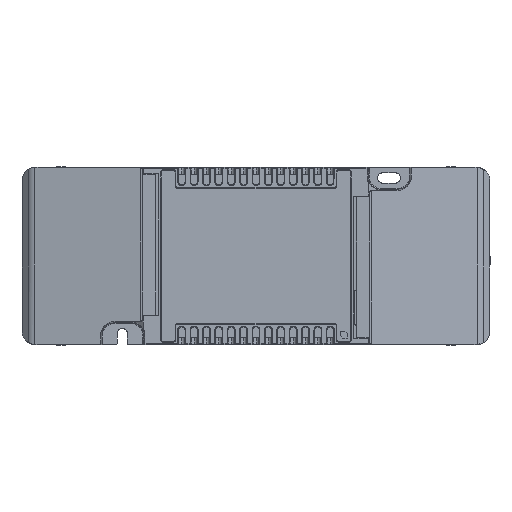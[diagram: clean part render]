
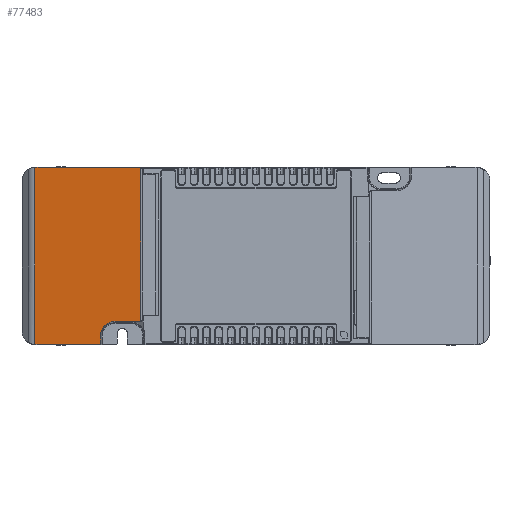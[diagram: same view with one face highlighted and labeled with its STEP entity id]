
A CAD part, top view. The second image highlights one B-rep face of the part: STEP entity #77483.
In plain terms, the highlighted planar face has unit normal (-0.141, 0, 0.99) as drawn and (0, -0.141, 0.99) by its records, which use the part's own axes.
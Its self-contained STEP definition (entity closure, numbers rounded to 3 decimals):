
#1093 = DIRECTION ( 'NONE',  ( -0.002, 0.99, 0.141 ) ) ;
#4899 = EDGE_CURVE ( 'NONE', #94100, #55813, #36519, .T. ) ;
#5419 = VERTEX_POINT ( 'NONE', #5581 ) ;
#5581 = CARTESIAN_POINT ( 'NONE',  ( 74.296, 15.772, 64.682 ) ) ;
#6487 = VECTOR ( 'NONE', #17252, 1000. ) ;
#9452 = CARTESIAN_POINT ( 'NONE',  ( 74.245, 45.08, 68.852 ) ) ;
#9981 = ORIENTED_EDGE ( 'NONE', *, *, #68151, .F. ) ;
#12097 = CARTESIAN_POINT ( 'NONE',  ( -4.377, 8.945, 63.71 ) ) ;
#12564 = CARTESIAN_POINT ( 'NONE',  ( 66.549, 45.08, 68.852 ) ) ;
#14315 = ORIENTED_EDGE ( 'NONE', *, *, #21126, .T. ) ;
#16767 = EDGE_CURVE ( 'NONE', #63071, #88839, #31916, .T. ) ;
#16996 = CARTESIAN_POINT ( 'NONE',  ( 74.253, 42.084, 68.425 ) ) ;
#17252 = DIRECTION ( 'NONE',  ( -1., 0., 0. ) ) ;
#17317 = CARTESIAN_POINT ( 'NONE',  ( 69.979, 45.08, 68.852 ) ) ;
#17962 = DIRECTION ( 'NONE',  ( 1., 0., 0. ) ) ;
#20553 = LINE ( 'NONE', #16996, #97491 ) ;
#21066 = CARTESIAN_POINT ( 'NONE',  ( -4.352, 15.942, 64.706 ) ) ;
#21126 = EDGE_CURVE ( 'NONE', #94100, #63071, #27507, .T. ) ;
#25269 = CARTESIAN_POINT ( 'NONE',  ( 74.317, 16.282, 64.754 ) ) ;
#25343 = VECTOR ( 'NONE', #17962, 1000. ) ;
#27507 = LINE ( 'NONE', #96306, #6487 ) ;
#28360 = CARTESIAN_POINT ( 'NONE',  ( -4.338, 15.772, 64.682 ) ) ;
#28426 = CARTESIAN_POINT ( 'NONE',  ( 64.119, 47.501, 69.196 ) ) ;
#29094 =( BOUNDED_CURVE ( )  B_SPLINE_CURVE ( 3, ( #28360, #21066, #36992, #92497 ),
 .UNSPECIFIED., .F., .F. ) 
 B_SPLINE_CURVE_WITH_KNOTS ( ( 4, 4 ),
 ( 1.377, 1.462 ),
 .UNSPECIFIED. ) 
 CURVE ( )  GEOMETRIC_REPRESENTATION_ITEM ( )  RATIONAL_B_SPLINE_CURVE ( ( 1., 0.999, 0.999, 1. ) ) 
 REPRESENTATION_ITEM ( '' )  );
#30039 = VERTEX_POINT ( 'NONE', #25269 ) ;
#31916 = LINE ( 'NONE', #12097, #71657 ) ;
#34743 = DIRECTION ( 'NONE',  ( 0.004, -0.99, -0.141 ) ) ;
#35207 = AXIS2_PLACEMENT_3D ( 'NONE', #37728, #93260, #45693 ) ;
#36303 = CARTESIAN_POINT ( 'NONE',  ( 74.317, 16.282, 64.754 ) ) ;
#36519 = LINE ( 'NONE', #74359, #97365 ) ;
#36746 = EDGE_LOOP ( 'NONE', ( #59525, #102982, #9981, #48173, #60960, #49900, #82205, #14315, #58102 ) ) ;
#36856 = LINE ( 'NONE', #46539, #97706 ) ;
#36992 = CARTESIAN_POINT ( 'NONE',  ( -4.359, 16.112, 64.73 ) ) ;
#37728 = CARTESIAN_POINT ( 'NONE',  ( 82.979, 63.32, 71.447 ) ) ;
#39974 = EDGE_CURVE ( 'NONE', #82624, #5419, #88633, .T. ) ;
#45693 = DIRECTION ( 'NONE',  ( 0., -0.99, -0.141 ) ) ;
#45768 = FACE_OUTER_BOUND ( 'NONE', #36746, .T. ) ;
#46539 = CARTESIAN_POINT ( 'NONE',  ( 90.549, 45.08, 68.852 ) ) ;
#48173 = ORIENTED_EDGE ( 'NONE', *, *, #55535, .T. ) ;
#49900 = ORIENTED_EDGE ( 'NONE', *, *, #73293, .T. ) ;
#51143 =( BOUNDED_CURVE ( )  B_SPLINE_CURVE ( 3, ( #68004, #12564, #28426, #83947 ),
 .UNSPECIFIED., .F., .F. ) 
 B_SPLINE_CURVE_WITH_KNOTS ( ( 4, 4 ),
 ( 3.142, 4.709 ),
 .UNSPECIFIED. ) 
 CURVE ( )  GEOMETRIC_REPRESENTATION_ITEM ( )  RATIONAL_B_SPLINE_CURVE ( ( 1., 0.806, 0.806, 1. ) ) 
 REPRESENTATION_ITEM ( '' )  );
#51854 =( BOUNDED_CURVE ( )  B_SPLINE_CURVE ( 3, ( #36303, #83886, #99872, #52276 ),
 .UNSPECIFIED., .F., .F. ) 
 B_SPLINE_CURVE_WITH_KNOTS ( ( 4, 4 ),
 ( 4.821, 4.906 ),
 .UNSPECIFIED. ) 
 CURVE ( )  GEOMETRIC_REPRESENTATION_ITEM ( )  RATIONAL_B_SPLINE_CURVE ( ( 1., 0.999, 0.999, 1. ) ) 
 REPRESENTATION_ITEM ( '' )  );
#52276 = CARTESIAN_POINT ( 'NONE',  ( 74.296, 15.772, 64.682 ) ) ;
#52437 = EDGE_CURVE ( 'NONE', #82624, #88839, #29094, .T. ) ;
#53362 = PLANE ( 'NONE',  #35207 ) ;
#55535 = EDGE_CURVE ( 'NONE', #30039, #102787, #20553, .T. ) ;
#55813 = VERTEX_POINT ( 'NONE', #91127 ) ;
#57295 = CARTESIAN_POINT ( 'NONE',  ( 64.062, 62.9, 71.387 ) ) ;
#58102 = ORIENTED_EDGE ( 'NONE', *, *, #16767, .T. ) ;
#59525 = ORIENTED_EDGE ( 'NONE', *, *, #52437, .F. ) ;
#60960 = ORIENTED_EDGE ( 'NONE', *, *, #83067, .T. ) ;
#62560 = DIRECTION ( 'NONE',  ( -1., 0., 0. ) ) ;
#63071 = VERTEX_POINT ( 'NONE', #82980 ) ;
#64362 = CARTESIAN_POINT ( 'NONE',  ( -4.338, 15.772, 64.682 ) ) ;
#68004 = CARTESIAN_POINT ( 'NONE',  ( 69.979, 45.08, 68.852 ) ) ;
#68151 = EDGE_CURVE ( 'NONE', #30039, #5419, #51854, .T. ) ;
#71657 = VECTOR ( 'NONE', #99450, 1000. ) ;
#73293 = EDGE_CURVE ( 'NONE', #86688, #55813, #51143, .T. ) ;
#74359 = CARTESIAN_POINT ( 'NONE',  ( 64.263, 8.944, 63.71 ) ) ;
#77483 = ADVANCED_FACE ( 'NONE', ( #45768 ), #53362, .T. ) ;
#81448 = CARTESIAN_POINT ( 'NONE',  ( 82.979, 15.772, 64.682 ) ) ;
#82205 = ORIENTED_EDGE ( 'NONE', *, *, #4899, .F. ) ;
#82624 = VERTEX_POINT ( 'NONE', #64362 ) ;
#82980 = CARTESIAN_POINT ( 'NONE',  ( -4.243, 62.9, 71.387 ) ) ;
#83067 = EDGE_CURVE ( 'NONE', #102787, #86688, #36856, .T. ) ;
#83886 = CARTESIAN_POINT ( 'NONE',  ( 74.317, 16.112, 64.73 ) ) ;
#83947 = CARTESIAN_POINT ( 'NONE',  ( 64.106, 50.931, 69.684 ) ) ;
#86688 = VERTEX_POINT ( 'NONE', #17317 ) ;
#88633 = LINE ( 'NONE', #81448, #25343 ) ;
#88839 = VERTEX_POINT ( 'NONE', #102091 ) ;
#91127 = CARTESIAN_POINT ( 'NONE',  ( 64.106, 50.931, 69.684 ) ) ;
#92497 = CARTESIAN_POINT ( 'NONE',  ( -4.358, 16.282, 64.754 ) ) ;
#93260 = DIRECTION ( 'NONE',  ( 0., -0.141, 0.99 ) ) ;
#94100 = VERTEX_POINT ( 'NONE', #57295 ) ;
#96306 = CARTESIAN_POINT ( 'NONE',  ( -4.021, 62.9, 71.387 ) ) ;
#97365 = VECTOR ( 'NONE', #34743, 1000. ) ;
#97491 = VECTOR ( 'NONE', #1093, 1000. ) ;
#97706 = VECTOR ( 'NONE', #62560, 1000. ) ;
#99450 = DIRECTION ( 'NONE',  ( -0.002, -0.99, -0.141 ) ) ;
#99872 = CARTESIAN_POINT ( 'NONE',  ( 74.31, 15.942, 64.706 ) ) ;
#102091 = CARTESIAN_POINT ( 'NONE',  ( -4.358, 16.282, 64.754 ) ) ;
#102787 = VERTEX_POINT ( 'NONE', #9452 ) ;
#102982 = ORIENTED_EDGE ( 'NONE', *, *, #39974, .T. ) ;
